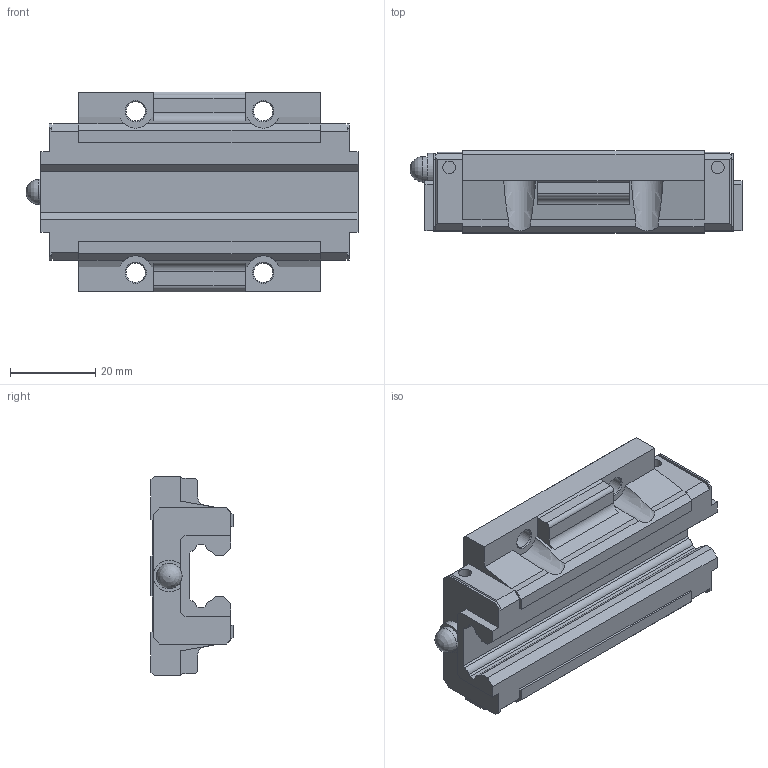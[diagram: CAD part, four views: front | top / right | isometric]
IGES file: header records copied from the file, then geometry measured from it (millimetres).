
Start section: Data from Parasolid IGES Translator 26.0.171, Copyright(c) 2006 Siemens PLM Software. All Rights Reserved.
Global section: file name: HSR15LC1SS(GK) BLOCK(1PB1021B).igs; native system: By Siemens PLM Incorporated; preprocessor: XPlus GENERIC/IGES 26.0.171; author: Noname; organization: Noname; date: 20240521.045832; units: millimetre
Bounding box: 78.1 x 19.3 x 47 mm (x, y, z)
Surface area: 12683.9 mm2 (no closed solid volume)
Topology: 0 solids, 0 shells, 169 faces, 939 edges, 917 vertices
Faces by surface type: extrusion 129, revolution 40
